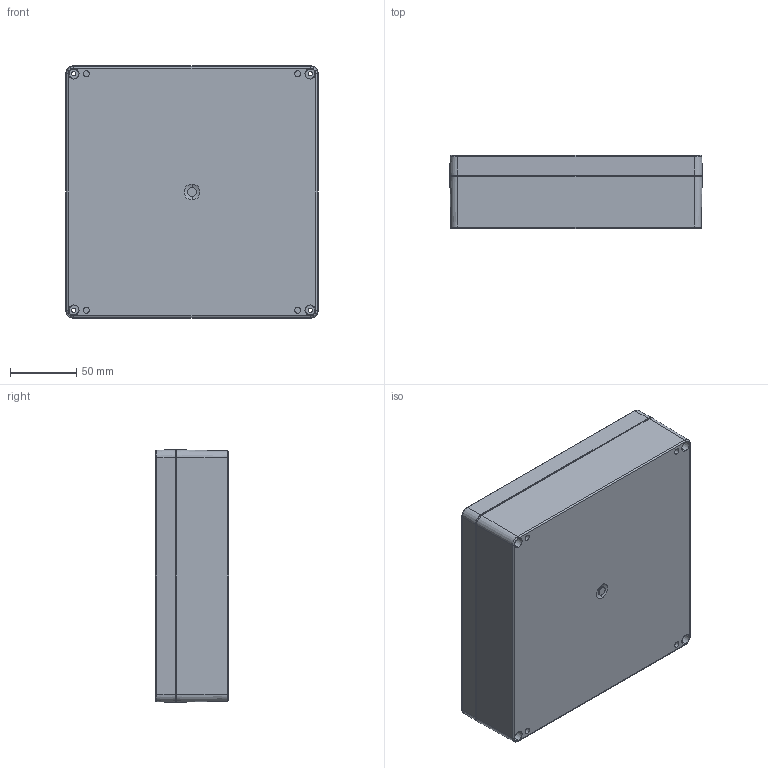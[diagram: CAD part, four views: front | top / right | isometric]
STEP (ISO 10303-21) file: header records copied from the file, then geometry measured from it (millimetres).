
FILE_DESCRIPTION (( 'STEP AP203' ), '1' );
FILE_NAME ('SE-249-0-0.STEP', '2018-12-11T07:30:22', ( '' ), ( '' ), 'SwSTEP 2.0', 'SolidWorks 2018', '' );
FILE_SCHEMA (( 'CONFIG_CONTROL_DESIGN' ));
Length unit declared in the file: millimetre
Products named in the file (3): SE-249-P-2; SE-249-P-1; SE-249-0-0
Assembly tree (2 placements, depth 2):
  SE-249-0-0
    SE-249-P-2
    SE-249-P-1
Bounding box: 190 x 55 x 190 mm (x, y, z)
Volume: 347389.6 mm3; surface area: 241233.6 mm2
Topology: 2 solids, 2 shells, 473 faces, 1182 edges, 782 vertices
Faces by surface type: plane 177, cone 158, cylinder 128, torus 10
Entity records: 14733 total; most frequent: DIRECTION 2698, CARTESIAN_POINT 2514, ORIENTED_EDGE 2364, EDGE_CURVE 1182, AXIS2_PLACEMENT_3D 1062, VERTEX_POINT 782, CIRCLE 584, VECTOR 574
